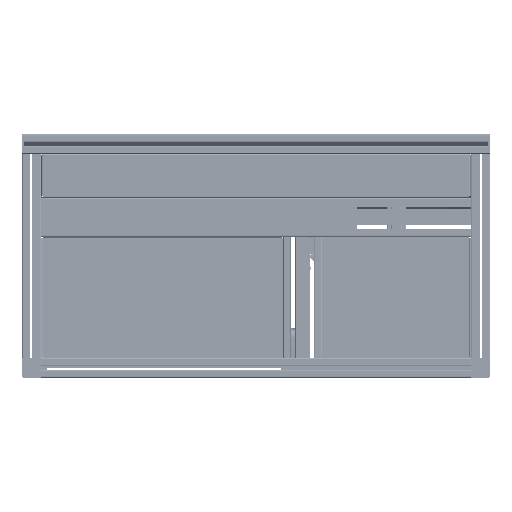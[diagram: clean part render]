
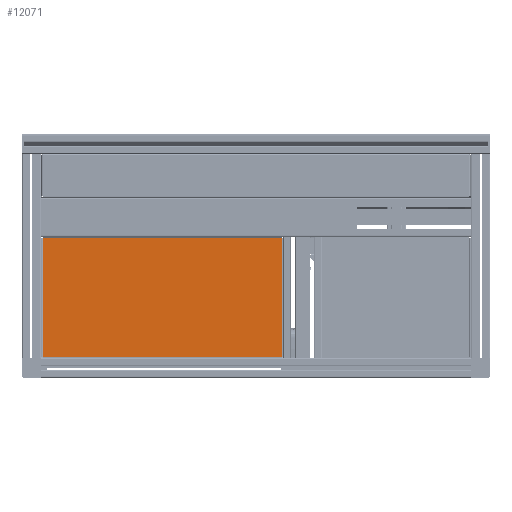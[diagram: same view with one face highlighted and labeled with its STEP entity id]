
A CAD part, front view. The second image highlights one B-rep face of the part: STEP entity #12071.
In plain terms, the highlighted planar face has unit normal (0, -1, 0).
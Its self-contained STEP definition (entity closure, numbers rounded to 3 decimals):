
#1551 = VECTOR ( 'NONE', #44384, 1000. ) ;
#10772 = CARTESIAN_POINT ( 'NONE',  ( -438.25, 18.5, 37.25 ) ) ;
#10980 = CARTESIAN_POINT ( 'NONE',  ( -438.25, 18.5, -207.293 ) ) ;
#12071 = ADVANCED_FACE ( 'NONE', ( #19953 ), #221423, .F. ) ;
#12289 = CARTESIAN_POINT ( 'NONE',  ( 52.75, 18.5, -206.75 ) ) ;
#14041 = EDGE_LOOP ( 'NONE', ( #240499, #247842, #336204, #419236 ) ) ;
#19556 = VECTOR ( 'NONE', #62434, 1000. ) ;
#19953 = FACE_OUTER_BOUND ( 'NONE', #14041, .T. ) ;
#38326 = VERTEX_POINT ( 'NONE', #265520 ) ;
#44384 = DIRECTION ( 'NONE',  ( 0., 0., 1. ) ) ;
#56615 = VERTEX_POINT ( 'NONE', #10772 ) ;
#62434 = DIRECTION ( 'NONE',  ( -1., 0., 0. ) ) ;
#87573 = LINE ( 'NONE', #192592, #140671 ) ;
#89286 = CARTESIAN_POINT ( 'NONE',  ( -192.75, 18.5, -84.75 ) ) ;
#96043 = CARTESIAN_POINT ( 'NONE',  ( 53.293, 18.5, -206.75 ) ) ;
#140671 = VECTOR ( 'NONE', #159058, 1000. ) ;
#152172 = CARTESIAN_POINT ( 'NONE',  ( -438.793, 18.5, 37.25 ) ) ;
#158573 = DIRECTION ( 'NONE',  ( 0., 0., 1. ) ) ;
#159058 = DIRECTION ( 'NONE',  ( 0., 0., -1. ) ) ;
#192592 = CARTESIAN_POINT ( 'NONE',  ( 52.75, 18.5, 37.793 ) ) ;
#221423 = PLANE ( 'NONE',  #245042 ) ;
#223491 = EDGE_CURVE ( 'NONE', #56615, #233571, #255217, .T. ) ;
#233571 = VERTEX_POINT ( 'NONE', #309247 ) ;
#240499 = ORIENTED_EDGE ( 'NONE', *, *, #333588, .F. ) ;
#245042 = AXIS2_PLACEMENT_3D ( 'NONE', #89286, #328795, #158573 ) ;
#247842 = ORIENTED_EDGE ( 'NONE', *, *, #415547, .F. ) ;
#255217 = LINE ( 'NONE', #152172, #404928 ) ;
#265520 = CARTESIAN_POINT ( 'NONE',  ( -438.25, 18.5, -206.75 ) ) ;
#309247 = CARTESIAN_POINT ( 'NONE',  ( 52.75, 18.5, 37.25 ) ) ;
#328795 = DIRECTION ( 'NONE',  ( 0., 1., 0. ) ) ;
#333588 = EDGE_CURVE ( 'NONE', #38326, #56615, #357621, .T. ) ;
#336204 = ORIENTED_EDGE ( 'NONE', *, *, #441126, .F. ) ;
#357621 = LINE ( 'NONE', #10980, #1551 ) ;
#384999 = DIRECTION ( 'NONE',  ( 1., 0., 0. ) ) ;
#402624 = LINE ( 'NONE', #96043, #19556 ) ;
#403875 = VERTEX_POINT ( 'NONE', #12289 ) ;
#404928 = VECTOR ( 'NONE', #384999, 1000. ) ;
#415547 = EDGE_CURVE ( 'NONE', #403875, #38326, #402624, .T. ) ;
#419236 = ORIENTED_EDGE ( 'NONE', *, *, #223491, .F. ) ;
#441126 = EDGE_CURVE ( 'NONE', #233571, #403875, #87573, .T. ) ;
